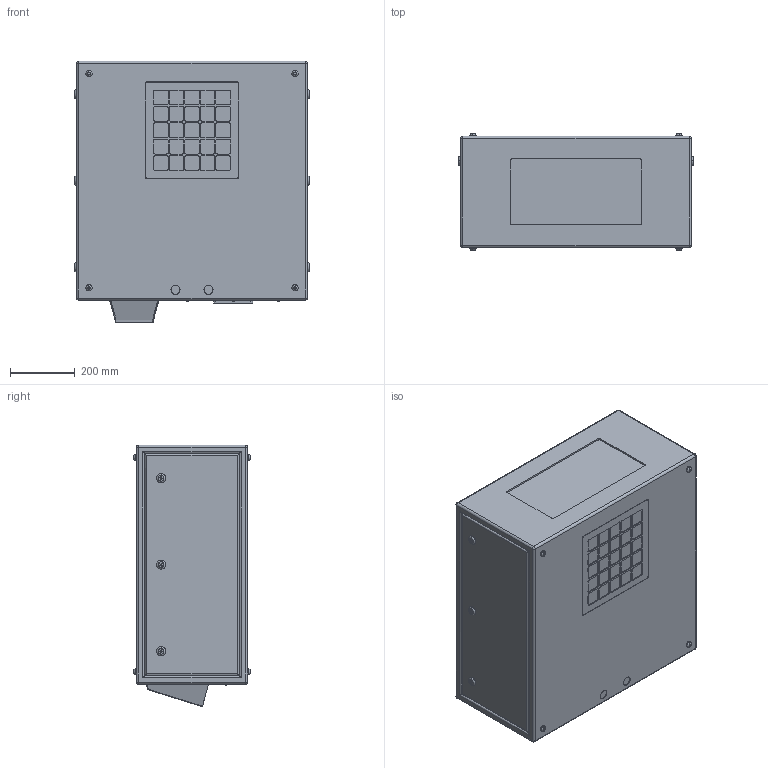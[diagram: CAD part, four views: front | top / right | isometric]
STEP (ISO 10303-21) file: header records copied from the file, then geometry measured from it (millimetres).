
FILE_DESCRIPTION (( 'STEP AP214' ), '1' );
FILE_NAME ('Blizzard 52.050.Lx.xx R06.STEP', '2020-04-29T23:12:40', ( '' ), ( '' ), 'SwSTEP 2.0', 'SolidWorks 2018', '' );
FILE_SCHEMA (( 'AUTOMOTIVE_DESIGN' ));
Length unit declared in the file: inch
Products named in the file (1): Blizzard 52.050.Lx.xx R06
Bounding box: 723.9 x 359.16 x 806.2 mm (x, y, z)
Volume: 179702664.7 mm3; surface area: 2272383.5 mm2
Topology: 1 solids, 5 shells, 635 faces, 1527 edges, 984 vertices
Faces by surface type: plane 340, cylinder 245, torus 40, sphere 10
Entity records: 22455 total; most frequent: DIRECTION 3305, CARTESIAN_POINT 3199, ORIENTED_EDGE 3038, EDGE_CURVE 1519, AXIS2_PLACEMENT_3D 1170, VERTEX_POINT 984, LINE 965, VECTOR 965
